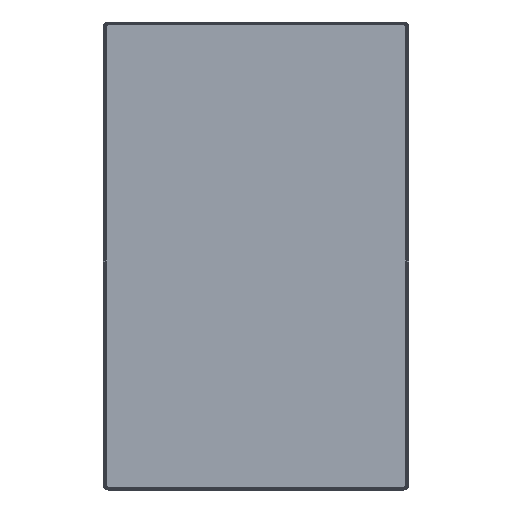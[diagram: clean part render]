
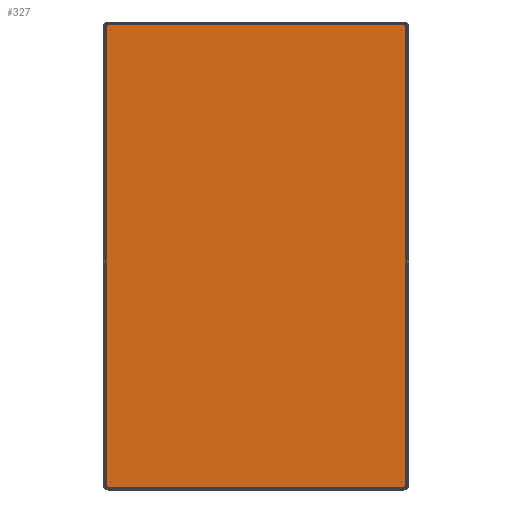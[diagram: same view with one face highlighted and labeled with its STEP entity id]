
A CAD part, top view. The second image highlights one B-rep face of the part: STEP entity #327.
In plain terms, the highlighted planar face has unit normal (0, 0, 1).
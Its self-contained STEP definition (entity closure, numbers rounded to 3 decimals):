
#327=ADVANCED_FACE('',(#573),#3873,.T.);
#573=FACE_OUTER_BOUND('',#828,.T.);
#828=EDGE_LOOP('',(#1935,#1936,#1937,#1938,#1939,#1940,#1941,#1942));
#1935=ORIENTED_EDGE('',*,*,#2528,.T.);
#1936=ORIENTED_EDGE('',*,*,#2543,.T.);
#1937=ORIENTED_EDGE('',*,*,#2529,.T.);
#1938=ORIENTED_EDGE('',*,*,#2539,.T.);
#1939=ORIENTED_EDGE('',*,*,#2530,.T.);
#1940=ORIENTED_EDGE('',*,*,#2534,.T.);
#1941=ORIENTED_EDGE('',*,*,#2531,.T.);
#1942=ORIENTED_EDGE('',*,*,#2537,.T.);
#2528=EDGE_CURVE('',#3620,#3621,#3288,.T.);
#2529=EDGE_CURVE('',#3622,#3623,#3289,.T.);
#2530=EDGE_CURVE('',#3624,#3625,#3290,.T.);
#2531=EDGE_CURVE('',#3626,#3627,#3291,.T.);
#2534=EDGE_CURVE('',#3625,#3626,#2779,.T.);
#2537=EDGE_CURVE('',#3627,#3620,#2782,.T.);
#2539=EDGE_CURVE('',#3623,#3624,#2784,.T.);
#2543=EDGE_CURVE('',#3621,#3622,#2788,.T.);
#2779=TRIMMED_CURVE($,#2958,(#12356),(#12357),.T.,.CARTESIAN.);
#2782=TRIMMED_CURVE($,#2961,(#12365),(#12366),.T.,.CARTESIAN.);
#2784=TRIMMED_CURVE($,#2963,(#12371),(#12372),.T.,.CARTESIAN.);
#2788=TRIMMED_CURVE($,#2967,(#12383),(#12384),.T.,.CARTESIAN.);
#2958=CIRCLE('',#4284,2.528);
#2961=CIRCLE('',#4287,2.528);
#2963=CIRCLE('',#4289,2.528);
#2967=CIRCLE('',#4293,2.528);
#3288=B_SPLINE_CURVE_WITH_KNOTS('',1,(#12341,#12342),.UNSPECIFIED.,.F.,
 .F.,(2,2),(0.,597.5),.UNSPECIFIED.);
#3289=B_SPLINE_CURVE_WITH_KNOTS('',1,(#12343,#12344),.UNSPECIFIED.,.F.,
 .F.,(2,2),(0.,385.64),.UNSPECIFIED.);
#3290=B_SPLINE_CURVE_WITH_KNOTS('',1,(#12345,#12346),.UNSPECIFIED.,.F.,
 .F.,(2,2),(0.,597.5),.UNSPECIFIED.);
#3291=B_SPLINE_CURVE_WITH_KNOTS('',1,(#12347,#12348),.UNSPECIFIED.,.F.,
 .F.,(2,2),(0.,385.64),.UNSPECIFIED.);
#3620=VERTEX_POINT('',#12277);
#3621=VERTEX_POINT('',#12278);
#3622=VERTEX_POINT('',#12279);
#3623=VERTEX_POINT('',#12280);
#3624=VERTEX_POINT('',#12281);
#3625=VERTEX_POINT('',#12282);
#3626=VERTEX_POINT('',#12283);
#3627=VERTEX_POINT('',#12284);
#3873=PLANE('',#4269);
#4269=AXIS2_PLACEMENT_3D('',#11932,#4763,$);
#4284=AXIS2_PLACEMENT_3D($,#12355,#4788,#4789);
#4287=AXIS2_PLACEMENT_3D($,#12364,#4794,#4795);
#4289=AXIS2_PLACEMENT_3D($,#12370,#4798,#4799);
#4293=AXIS2_PLACEMENT_3D($,#12382,#4806,#4807);
#4763=DIRECTION('',(0.,0.,1.));
#4788=DIRECTION('',(0.,0.,1.));
#4789=DIRECTION('',(1.,0.,0.));
#4794=DIRECTION('',(0.,0.,1.));
#4795=DIRECTION('',(0.,1.,0.));
#4798=DIRECTION('',(0.,0.,1.));
#4799=DIRECTION('',(0.,-1.,0.));
#4806=DIRECTION('',(0.,0.,1.));
#4807=DIRECTION('',(-1.,0.,0.));
#11932=CARTESIAN_POINT('',(-235.027,-362.893,6.565));
#12277=CARTESIAN_POINT('',(-195.348,298.,6.565));
#12278=CARTESIAN_POINT('',(-195.348,-299.5,6.565));
#12279=CARTESIAN_POINT('',(-192.82,-302.028,6.565));
#12280=CARTESIAN_POINT('',(192.82,-302.028,6.565));
#12281=CARTESIAN_POINT('',(195.348,-299.5,6.565));
#12282=CARTESIAN_POINT('',(195.348,298.,6.565));
#12283=CARTESIAN_POINT('',(192.82,300.528,6.565));
#12284=CARTESIAN_POINT('',(-192.82,300.528,6.565));
#12341=CARTESIAN_POINT('',(-195.348,298.,6.565));
#12342=CARTESIAN_POINT('',(-195.348,-299.5,6.565));
#12343=CARTESIAN_POINT('',(-192.82,-302.028,6.565));
#12344=CARTESIAN_POINT('',(192.82,-302.028,6.565));
#12345=CARTESIAN_POINT('',(195.348,-299.5,6.565));
#12346=CARTESIAN_POINT('',(195.348,298.,6.565));
#12347=CARTESIAN_POINT('',(192.82,300.528,6.565));
#12348=CARTESIAN_POINT('',(-192.82,300.528,6.565));
#12355=CARTESIAN_POINT('',(192.82,298.,6.565));
#12356=CARTESIAN_POINT('',(195.348,298.,6.565));
#12357=CARTESIAN_POINT('',(192.82,300.528,6.565));
#12364=CARTESIAN_POINT('',(-192.82,298.,6.565));
#12365=CARTESIAN_POINT('',(-192.82,300.528,6.565));
#12366=CARTESIAN_POINT('',(-195.348,298.,6.565));
#12370=CARTESIAN_POINT('',(192.82,-299.5,6.565));
#12371=CARTESIAN_POINT('',(192.82,-302.028,6.565));
#12372=CARTESIAN_POINT('',(195.348,-299.5,6.565));
#12382=CARTESIAN_POINT('',(-192.82,-299.5,6.565));
#12383=CARTESIAN_POINT('',(-195.348,-299.5,6.565));
#12384=CARTESIAN_POINT('',(-192.82,-302.028,6.565));
